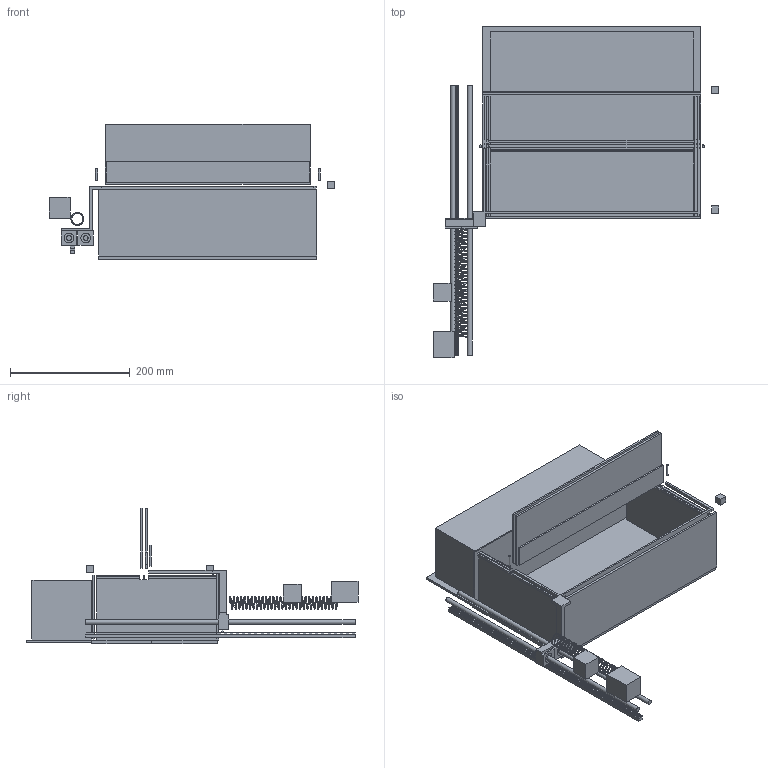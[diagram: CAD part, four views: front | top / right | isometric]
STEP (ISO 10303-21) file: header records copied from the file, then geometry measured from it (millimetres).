
FILE_DESCRIPTION(('FreeCAD Model'),'2;1');
FILE_NAME('Open CASCADE Shape Model','2026-10-19T11:23:55',('FreeCAD'),( 'FreeCAD'),'Open CASCADE STEP processor 7.8','FreeCAD','Unknown');
FILE_SCHEMA(('AUTOMOTIVE_DESIGN { 1 0 10303 214 1 1 1 1 }'));
Length unit declared in the file: millimetre
Products named in the file (1): Open CASCADE STEP translator 7.8 8
Bounding box: 477.5 x 555 x 226 mm (x, y, z)
Volume: 5025450.6 mm3; surface area: 1002120.5 mm2
Topology: 29 solids, 29 shells, 1155 faces, 3288 edges, 2192 vertices
Faces by surface type: plane 1144, cylinder 10, bspline 1
Full cylindrical faces by diameter (mm): 4 x2, 8 x2, 8.5 x2, 16 x4
Entity records: 39877 total; most frequent: CARTESIAN_POINT 9774, ORIENTED_EDGE 6576, DIRECTION 5615, EDGE_CURVE 3288, LINE 3265, VECTOR 3265, VERTEX_POINT 2192, AXIS2_PLACEMENT_3D 1175
